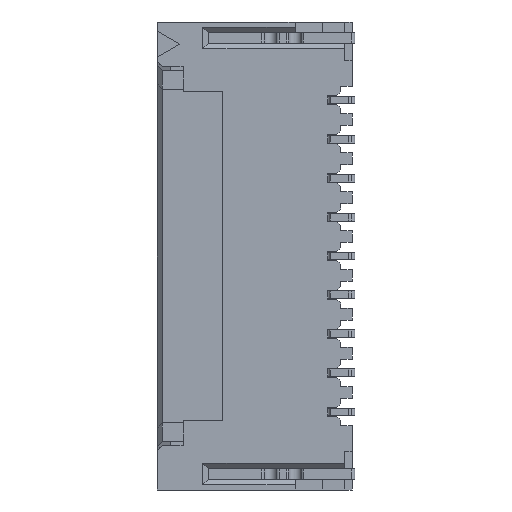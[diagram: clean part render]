
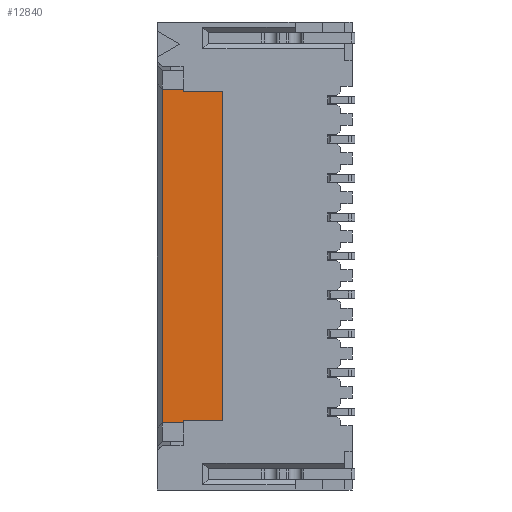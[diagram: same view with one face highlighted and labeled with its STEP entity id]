
A CAD part, left-side view. The second image highlights one B-rep face of the part: STEP entity #12840.
In plain terms, the highlighted planar face has unit normal (-1, 0, 0).
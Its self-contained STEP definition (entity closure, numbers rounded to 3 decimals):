
#10 = FACE_OUTER_BOUND ( 'NONE', #15874, .T. ) ;
#44 = CARTESIAN_POINT ( 'NONE',  ( 3.846, -14.192, -8.65 ) ) ;
#2611 = DIRECTION ( 'NONE',  ( 0., 0., 1. ) ) ;
#3393 = VERTEX_POINT ( 'NONE', #10623 ) ;
#4334 = VECTOR ( 'NONE', #25131, 1000. ) ;
#4784 = CARTESIAN_POINT ( 'NONE',  ( 3.846, 3.979, 4.17 ) ) ;
#5406 = EDGE_CURVE ( 'NONE', #25175, #11007, #9108, .T. ) ;
#8576 = DIRECTION ( 'NONE',  ( 0., 0., -1. ) ) ;
#8857 = ORIENTED_EDGE ( 'NONE', *, *, #22617, .T. ) ;
#9108 = LINE ( 'NONE', #16279, #4334 ) ;
#9425 = CARTESIAN_POINT ( 'NONE',  ( 3.846, 3.979, -8.65 ) ) ;
#9442 = PLANE ( 'NONE',  #9633 ) ;
#9633 = AXIS2_PLACEMENT_3D ( 'NONE', #23024, #15859, #22884 ) ;
#10623 = CARTESIAN_POINT ( 'NONE',  ( 3.846, -1.371, -8.65 ) ) ;
#11007 = VERTEX_POINT ( 'NONE', #4784 ) ;
#11198 = CARTESIAN_POINT ( 'NONE',  ( 3.846, -1.371, 4.17 ) ) ;
#11713 = VECTOR ( 'NONE', #11777, 1000. ) ;
#11777 = DIRECTION ( 'NONE',  ( 0., 1., 0. ) ) ;
#12840 = ADVANCED_FACE ( 'NONE', ( #10 ), #9442, .F. ) ;
#13454 = LINE ( 'NONE', #29477, #14249 ) ;
#14249 = VECTOR ( 'NONE', #8576, 1000. ) ;
#15859 = DIRECTION ( 'NONE',  ( 1., 0., 0. ) ) ;
#15874 = EDGE_LOOP ( 'NONE', ( #26160, #28717, #8857, #25024 ) ) ;
#16279 = CARTESIAN_POINT ( 'NONE',  ( 3.846, -14.192, 4.17 ) ) ;
#16509 = CARTESIAN_POINT ( 'NONE',  ( 3.846, -1.371, -4.17 ) ) ;
#20308 = EDGE_CURVE ( 'NONE', #3393, #25970, #21085, .T. ) ;
#21085 = LINE ( 'NONE', #44, #11713 ) ;
#22485 = EDGE_CURVE ( 'NONE', #11007, #25970, #13454, .T. ) ;
#22617 = EDGE_CURVE ( 'NONE', #3393, #25175, #27789, .T. ) ;
#22884 = DIRECTION ( 'NONE',  ( 0., 1., 0. ) ) ;
#23024 = CARTESIAN_POINT ( 'NONE',  ( 3.846, -14.192, -4.17 ) ) ;
#25024 = ORIENTED_EDGE ( 'NONE', *, *, #5406, .T. ) ;
#25131 = DIRECTION ( 'NONE',  ( 0., 1., 0. ) ) ;
#25175 = VERTEX_POINT ( 'NONE', #11198 ) ;
#25970 = VERTEX_POINT ( 'NONE', #9425 ) ;
#26160 = ORIENTED_EDGE ( 'NONE', *, *, #22485, .T. ) ;
#27789 = LINE ( 'NONE', #16509, #29840 ) ;
#28717 = ORIENTED_EDGE ( 'NONE', *, *, #20308, .F. ) ;
#29477 = CARTESIAN_POINT ( 'NONE',  ( 3.846, 3.979, -4.17 ) ) ;
#29840 = VECTOR ( 'NONE', #2611, 1000. ) ;
